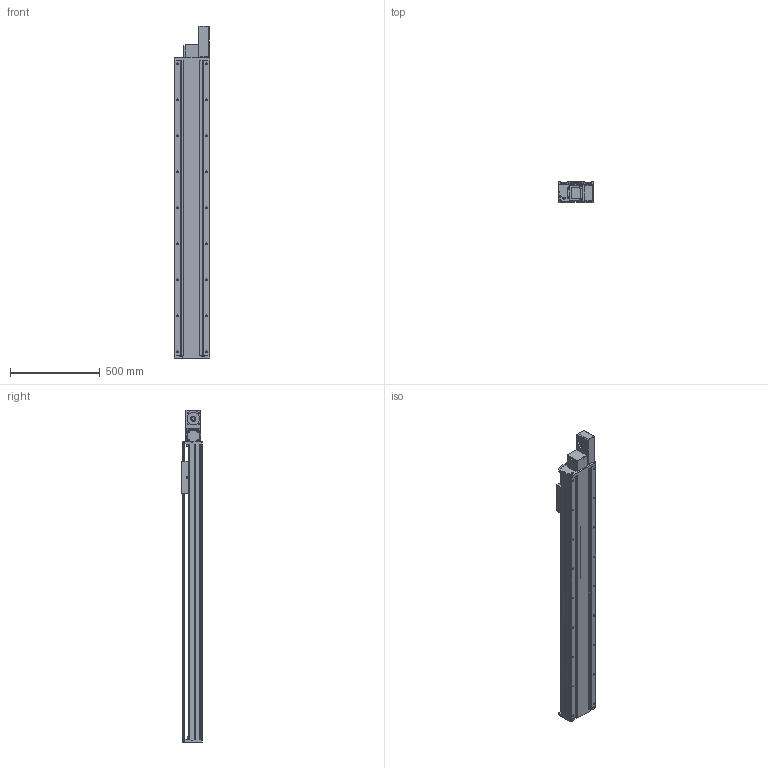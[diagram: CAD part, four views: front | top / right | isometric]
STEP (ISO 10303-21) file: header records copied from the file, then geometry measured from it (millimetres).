
FILE_DESCRIPTION(/* description */ (''),/* implementation_level */ '2;1');
FILE_NAME(/* name */ 'TKB200-FL-1400_asm1.stp',/* time_stamp */ '2016-05-18T11:00:00+08:00',/* author */ (''),/* organization */ (''),/* preprocessor_version */ 'ST-DEVELOPER v15',/* originating_system */ 'SIEMENS PLM Software NX 8.5',/* authorisation */ '');
FILE_SCHEMA (('AUTOMOTIVE_DESIGN { 1 0 10303 214 3 1 1 1 }'));
Length unit declared in the file: millimetre
Products named in the file (3): 200-2; 200-1; TKB200-FL-1400_asm1
Assembly tree (2 placements, depth 2):
  TKB200-FL-1400_asm1
    200-1
    200-2
Bounding box: 200 x 115 x 1845 mm (x, y, z)
Volume: 10670194.2 mm3; surface area: 3371905.1 mm2
Topology: 2 solids, 3 shells, 1047 faces, 2984 edges, 1921 vertices
Faces by surface type: cylinder 492, plane 469, cone 70, bspline 16
Full cylindrical faces by diameter (mm): 2.5 x2, 3.3 x16, 4.3 x4, 4.5 x8, 5 x2, 6.6 x34, 6.8 x8, 8 x6, 9 x26, 10 x4, 11 x22, 12 x16, 14 x18, 36 x1, 42 x2, 75 x1
Entity records: 36229 total; most frequent: CARTESIAN_POINT 9908, DIRECTION 5367, ORIENTED_EDGE 5286, EDGE_CURVE 2643, AXIS2_PLACEMENT_3D 1958, VERTEX_POINT 1822, EDGE_LOOP 1467, LINE 1451
